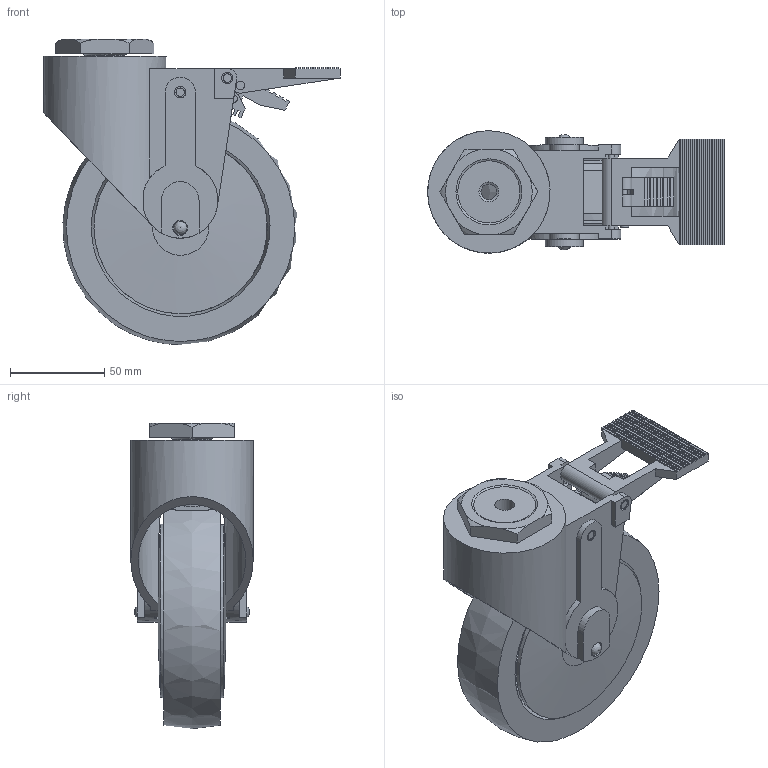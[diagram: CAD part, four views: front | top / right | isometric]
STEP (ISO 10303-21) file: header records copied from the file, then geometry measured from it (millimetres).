
FILE_DESCRIPTION((''),'2;1');
FILE_NAME('C:\Documents and Settings\Administrator\바탕 화면\2011년도\도면 및 견적서 발송\지덕 전체도면\3D도면\GDC\GDC-125-BSS\GDC-125-BSS.stp','2012-02-03T09:24:00',('Administrator'),(''),'Autodesk Inventor 2009','Autodesk Inventor 2009','');
FILE_SCHEMA(('AUTOMOTIVE_DESIGN { 1 0 10303 214 1 1 1 1 }'));
Length unit declared in the file: millimetre
Products named in the file (1): GDC-125-BSS
Bounding box: 157.47 x 64.98 x 162.2 mm (x, y, z)
Volume: 406252 mm3; surface area: 151842.4 mm2
Topology: 8 solids, 57 shells, 940 faces, 2556 edges, 1612 vertices
Faces by surface type: plane 593, cylinder 137, cone 79, sphere 51, bspline 43, torus 37
Full cylindrical faces by diameter (mm): 3 x9, 4 x2, 4.5 x4, 6 x4, 8 x5, 8.2 x2, 8.4 x1, 10.5 x1, 12 x4, 18 x5, 20 x9, 21 x1, 22 x4, 25 x1, 27 x1, 29 x1, 39 x2, 39.4 x1, 41 x1, 65 x1, 89 x2, 92 x2
Entity records: 29240 total; most frequent: CARTESIAN_POINT 6158, DIRECTION 4935, ORIENTED_EDGE 4794, EDGE_CURVE 2397, AXIS2_PLACEMENT_3D 1867, VERTEX_POINT 1560, VECTOR 1201, LINE 1201
